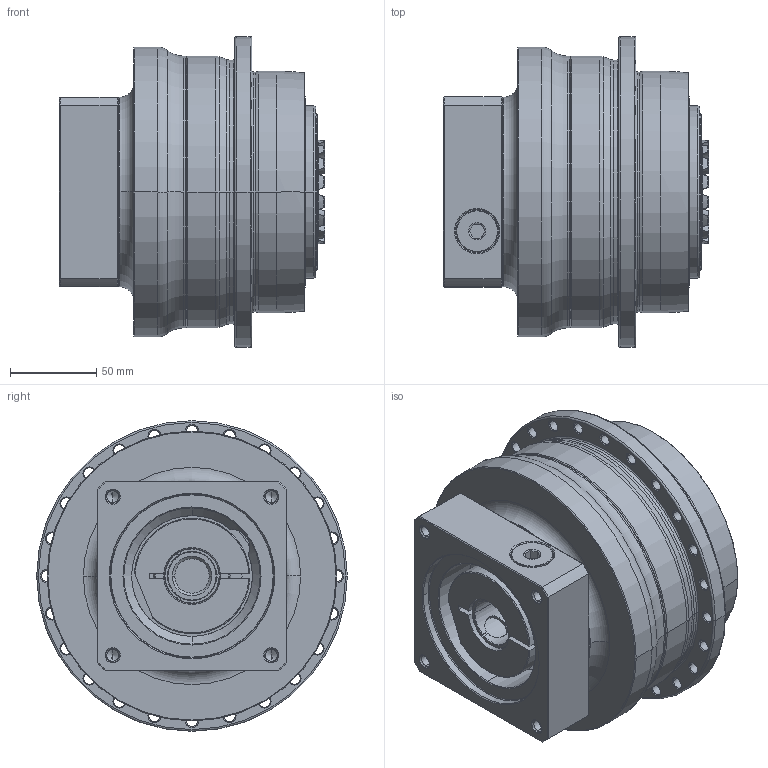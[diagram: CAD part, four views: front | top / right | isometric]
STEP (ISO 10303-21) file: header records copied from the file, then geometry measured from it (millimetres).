
FILE_DESCRIPTION((''),'2;1');
FILE_NAME('APC140_1ST_28-P0409610201_ASM','2018-06-26T',('d01226'),(''),'PRO/ENGINEER BY PARAMETRIC TECHNOLOGY CORPORATION, 2008410','PRO/ENGINEER BY PARAMETRIC TECHNOLOGY CORPORATION, 2008410','');
FILE_SCHEMA(('CONFIG_CONTROL_DESIGN'));
Length unit declared in the file: millimetre
Products named in the file (9): P0278501003; P03595D0103; P1318510101; P0503600010; P0912551001; P1211500001; P0409610201; 21711418017; APC140_1ST_28-P0409610201_ASM
Assembly tree (8 placements, depth 2):
  APC140_1ST_28-P0409610201_ASM
    P0278501003
    P03595D0103
    P1318510101
    P0503600010
    P0912551001
    P1211500001
    P0409610201
    21711418017
Bounding box: 153.6 x 180 x 180 mm (x, y, z)
Volume: 2265230.9 mm3; surface area: 293160.2 mm2
Topology: 9 solids, 19 shells, 673 faces, 1625 edges, 991 vertices
Faces by surface type: cone 223, cylinder 211, plane 122, torus 103, bspline 14
Entity records: 25081 total; most frequent: CARTESIAN_POINT 8947, DIRECTION 3605, ORIENTED_EDGE 3172, EDGE_CURVE 1607, AXIS2_PLACEMENT_3D 1565, VERTEX_POINT 991, CIRCLE 879, EDGE_LOOP 776
